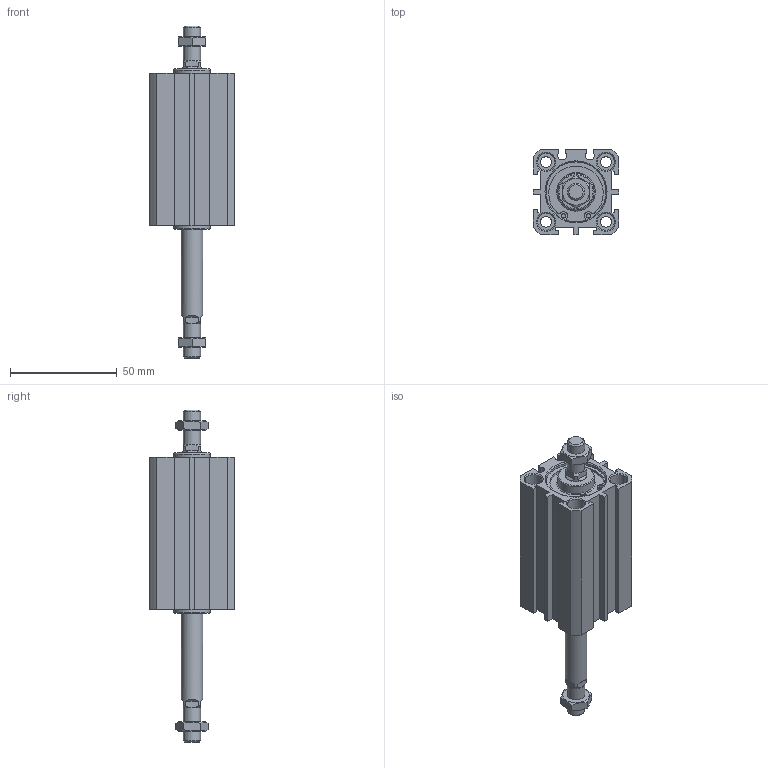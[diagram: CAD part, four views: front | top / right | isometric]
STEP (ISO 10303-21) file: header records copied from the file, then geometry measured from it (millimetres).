
FILE_DESCRIPTION((''),'2;1');
FILE_NAME('I:\3D電子目錄\氣缸\JDD\JDD-BS\JDD25-BS\JDD25x40-BS.stp','2007-02-27T13:45:33',('662F206'),(''),'Autodesk Inventor 10','Autodesk Inventor 10','');
FILE_SCHEMA(('AUTOMOTIVE_DESIGN { 1 0 10303 214 1 1 1 1 }'));
Length unit declared in the file: millimetre
Products named in the file (3): JDD25-BS; R 形環 28
Assembly tree (3 placements, depth 2):
  JDD25-BS
    JDD25-BS
    R 形環 28  x2
Bounding box: 40 x 40 x 155.2 mm (x, y, z)
Volume: 96446.8 mm3; surface area: 29344.4 mm2
Topology: 3 solids, 3 shells, 192 faces, 454 edges, 294 vertices
Faces by surface type: plane 108, cylinder 50, cone 26, bspline 6, torus 2
Full cylindrical faces by diameter (mm): 1.5 x2, 1.9 x4, 5.1 x4, 8 x12, 10 x2, 17 x2, 28 x4, 29.4 x2
Entity records: 4989 total; most frequent: CARTESIAN_POINT 1022, DIRECTION 812, ORIENTED_EDGE 724, EDGE_CURVE 362, AXIS2_PLACEMENT_3D 310, EDGE_LOOP 272, VERTEX_POINT 266, VECTOR 192
